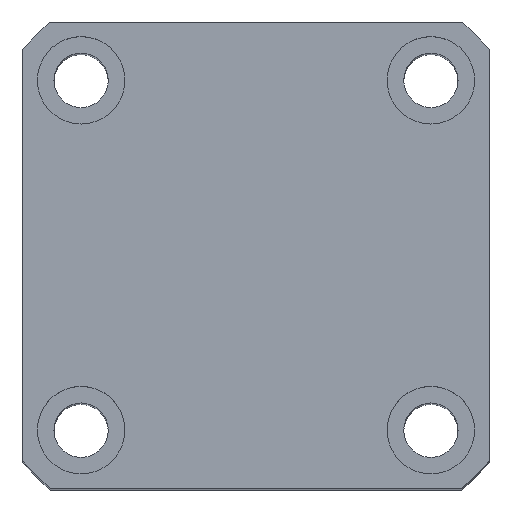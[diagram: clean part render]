
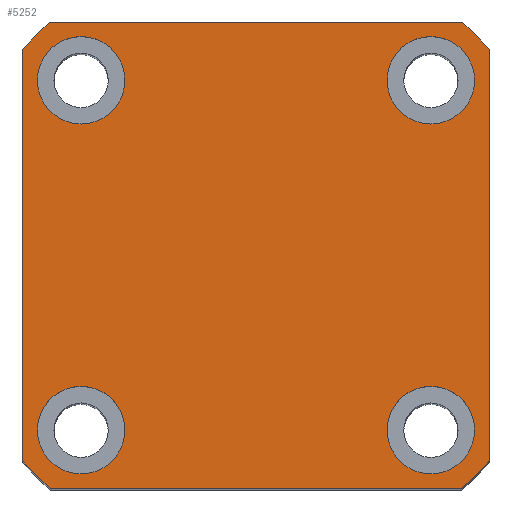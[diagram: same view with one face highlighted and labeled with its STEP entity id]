
A CAD part, top view. The second image highlights one B-rep face of the part: STEP entity #5252.
In plain terms, the highlighted planar face has unit normal (0, 0, 1).
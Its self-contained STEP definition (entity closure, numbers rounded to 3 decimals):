
#2549=PLANE('',#10804);
#2877=LINE('',#16852,#3647);
#2881=LINE('',#17080,#3651);
#2885=LINE('',#17089,#3655);
#2889=LINE('',#17098,#3659);
#3647=VECTOR('',#11251,1.);
#3651=VECTOR('',#11373,1.);
#3655=VECTOR('',#11379,1.);
#3659=VECTOR('',#11385,1.);
#5252=ADVANCED_FACE('',(#5755,#5756,#5757,#5758,#5759),#2549,.T.);
#5755=FACE_BOUND('',#5951,.T.);
#5756=FACE_BOUND('',#5952,.T.);
#5757=FACE_BOUND('',#5953,.T.);
#5758=FACE_BOUND('',#5954,.T.);
#5759=FACE_BOUND('',#5955,.T.);
#5951=EDGE_LOOP('',(#6692));
#5952=EDGE_LOOP('',(#6693));
#5953=EDGE_LOOP('',(#6694));
#5954=EDGE_LOOP('',(#6695));
#5955=EDGE_LOOP('',(#6696,#6697,#6698,#6699,#6700,#6701,#6702,#6703));
#6692=ORIENTED_EDGE('',*,*,#9597,.F.);
#6693=ORIENTED_EDGE('',*,*,#9599,.F.);
#6694=ORIENTED_EDGE('',*,*,#9601,.F.);
#6695=ORIENTED_EDGE('',*,*,#9603,.F.);
#6696=ORIENTED_EDGE('',*,*,#9618,.T.);
#6697=ORIENTED_EDGE('',*,*,#9629,.T.);
#6698=ORIENTED_EDGE('',*,*,#9574,.T.);
#6699=ORIENTED_EDGE('',*,*,#9630,.T.);
#6700=ORIENTED_EDGE('',*,*,#9622,.T.);
#6701=ORIENTED_EDGE('',*,*,#9631,.T.);
#6702=ORIENTED_EDGE('',*,*,#9626,.T.);
#6703=ORIENTED_EDGE('',*,*,#9632,.T.);
#8756=VERTEX_POINT('',#16850);
#8758=VERTEX_POINT('',#16853);
#8780=VERTEX_POINT('',#17029);
#8782=VERTEX_POINT('',#17034);
#8784=VERTEX_POINT('',#17039);
#8786=VERTEX_POINT('',#17044);
#8799=VERTEX_POINT('',#17078);
#8801=VERTEX_POINT('',#17081);
#8803=VERTEX_POINT('',#17087);
#8805=VERTEX_POINT('',#17090);
#8807=VERTEX_POINT('',#17096);
#8809=VERTEX_POINT('',#17099);
#9574=EDGE_CURVE('',#8758,#8756,#2877,.T.);
#9597=EDGE_CURVE('',#8780,#8780,#10626,.T.);
#9599=EDGE_CURVE('',#8782,#8782,#10628,.T.);
#9601=EDGE_CURVE('',#8784,#8784,#10630,.T.);
#9603=EDGE_CURVE('',#8786,#8786,#10632,.T.);
#9618=EDGE_CURVE('',#8801,#8799,#2881,.T.);
#9622=EDGE_CURVE('',#8805,#8803,#2885,.T.);
#9626=EDGE_CURVE('',#8809,#8807,#2889,.T.);
#9629=EDGE_CURVE('',#8799,#8758,#10646,.T.);
#9630=EDGE_CURVE('',#8756,#8805,#10647,.T.);
#9631=EDGE_CURVE('',#8803,#8809,#10648,.T.);
#9632=EDGE_CURVE('',#8807,#8801,#10649,.T.);
#10626=CIRCLE('',#10767,4.5);
#10628=CIRCLE('',#10770,4.5);
#10630=CIRCLE('',#10773,4.5);
#10632=CIRCLE('',#10776,4.5);
#10646=CIRCLE('',#10800,32.);
#10647=CIRCLE('',#10801,32.);
#10648=CIRCLE('',#10802,32.);
#10649=CIRCLE('',#10803,32.);
#10767=AXIS2_PLACEMENT_3D('',#17028,#11312,#11313);
#10770=AXIS2_PLACEMENT_3D('',#17033,#11318,#11319);
#10773=AXIS2_PLACEMENT_3D('',#17038,#11324,#11325);
#10776=AXIS2_PLACEMENT_3D('',#17043,#11330,#11331);
#10800=AXIS2_PLACEMENT_3D('',#17104,#11390,#11391);
#10801=AXIS2_PLACEMENT_3D('',#17105,#11392,#11393);
#10802=AXIS2_PLACEMENT_3D('',#17106,#11394,#11395);
#10803=AXIS2_PLACEMENT_3D('',#17107,#11396,#11397);
#10804=AXIS2_PLACEMENT_3D('',#17108,#11398,#11399);
#11251=DIRECTION('',(-1.,0.,0.));
#11312=DIRECTION('',(0.,0.,1.));
#11313=DIRECTION('',(1.,0.,0.));
#11318=DIRECTION('',(0.,0.,1.));
#11319=DIRECTION('',(1.,0.,0.));
#11324=DIRECTION('',(0.,0.,1.));
#11325=DIRECTION('',(1.,0.,0.));
#11330=DIRECTION('',(0.,0.,1.));
#11331=DIRECTION('',(1.,0.,0.));
#11373=DIRECTION('',(0.,1.,0.));
#11379=DIRECTION('',(0.,-1.,0.));
#11385=DIRECTION('',(1.,0.,0.));
#11390=DIRECTION('',(0.,0.,1.));
#11391=DIRECTION('',(1.,0.,0.));
#11392=DIRECTION('',(0.,0.,1.));
#11393=DIRECTION('',(1.,0.,0.));
#11394=DIRECTION('',(0.,0.,1.));
#11395=DIRECTION('',(1.,0.,0.));
#11396=DIRECTION('',(0.,0.,1.));
#11397=DIRECTION('',(1.,0.,0.));
#11398=DIRECTION('',(0.,0.,1.));
#11399=DIRECTION('',(-1.,0.,0.));
#16850=CARTESIAN_POINT('',(-24.459,20.823,88.803));
#16852=CARTESIAN_POINT('',(-27.293,20.823,88.803));
#16853=CARTESIAN_POINT('',(17.873,20.823,88.803));
#17028=CARTESIAN_POINT('',(14.707,-21.177,88.803));
#17029=CARTESIAN_POINT('',(19.207,-21.177,88.803));
#17033=CARTESIAN_POINT('',(-21.293,-21.177,88.803));
#17034=CARTESIAN_POINT('',(-16.793,-21.177,88.803));
#17038=CARTESIAN_POINT('',(14.707,14.823,88.803));
#17039=CARTESIAN_POINT('',(19.207,14.823,88.803));
#17043=CARTESIAN_POINT('',(-21.293,14.823,88.803));
#17044=CARTESIAN_POINT('',(-16.793,14.823,88.803));
#17078=CARTESIAN_POINT('',(20.707,17.989,88.803));
#17080=CARTESIAN_POINT('',(20.707,20.823,88.803));
#17081=CARTESIAN_POINT('',(20.707,-24.343,88.803));
#17087=CARTESIAN_POINT('',(-27.293,-24.343,88.803));
#17089=CARTESIAN_POINT('',(-27.293,20.823,88.803));
#17090=CARTESIAN_POINT('',(-27.293,17.989,88.803));
#17096=CARTESIAN_POINT('',(17.873,-27.177,88.803));
#17098=CARTESIAN_POINT('',(-27.293,-27.177,88.803));
#17099=CARTESIAN_POINT('',(-24.459,-27.177,88.803));
#17104=CARTESIAN_POINT('',(-3.293,-3.177,88.803));
#17105=CARTESIAN_POINT('',(-3.293,-3.177,88.803));
#17106=CARTESIAN_POINT('',(-3.293,-3.177,88.803));
#17107=CARTESIAN_POINT('',(-3.293,-3.177,88.803));
#17108=CARTESIAN_POINT('',(-3.293,-3.177,88.803));
